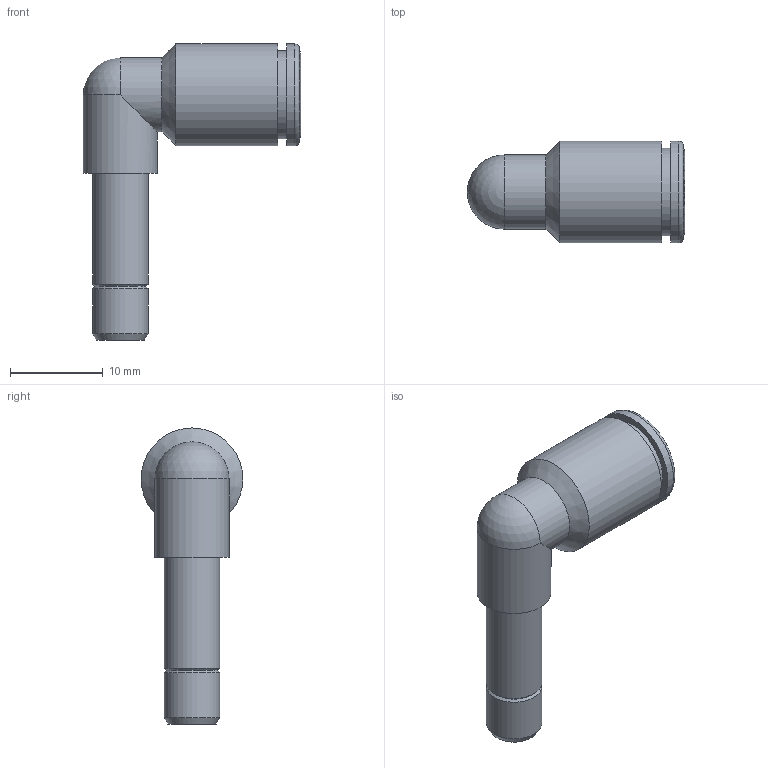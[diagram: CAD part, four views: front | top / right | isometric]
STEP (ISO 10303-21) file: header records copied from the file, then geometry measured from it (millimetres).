
FILE_DESCRIPTION(('Bauteilbeschreibung','HiCAD-Model','HiCAD-STEP-TRANSLATION','Bauteilbeschreibung'),'2;1');
FILE_NAME('B:/ABGLEICH/ZEICHNUNGEN/STEP FÜR INTERNET/STEP/IPSO 047/204703_IPSO_047_6.STP','2012-03-16T12:26:22+00:00',('Konstrukteur'),('Konstrukteur Firma GmbH'),' HiCAD neXt 2008, Step 3.1.1401.2J ','HiCAD neXt 2008','confidential');
FILE_SCHEMA(('AUTOMOTIVE_DESIGN { 1 2 10303 214 0 1 1 1 }'));
Length unit declared in the file: millimetre
Products named in the file (3): A04703_IPSO_047_6; R204703_N; DR6_1_NEU
Assembly tree (2 placements, depth 2):
  A04703_IPSO_047_6
    R204703_N
    DR6_1_NEU
Bounding box: 23.5 x 11 x 32 mm (x, y, z)
Volume: 1435.1 mm3; surface area: 2480.8 mm2
Topology: 2 solids, 2 shells, 36 faces, 76 edges, 45 vertices
Faces by surface type: cylinder 14, cone 13, plane 7, sphere 1, torus 1
Full cylindrical faces by diameter (mm): 4 x1, 5 x1, 6 x2, 6.1 x1, 6.2 x1, 8 x2, 8.3 x1, 9 x1, 9.5 x1, 9.6 x1, 11 x2
Entity records: 1572 total; most frequent: CARTESIAN_POINT 681, DIRECTION 152, ORIENTED_EDGE 78, AXIS2_PLACEMENT_3D 76, EDGE_LOOP 70, EDGE_CURVE 39, COLOUR_RGB 38, PRESENTATION_STYLE_ASSIGNMENT 38
